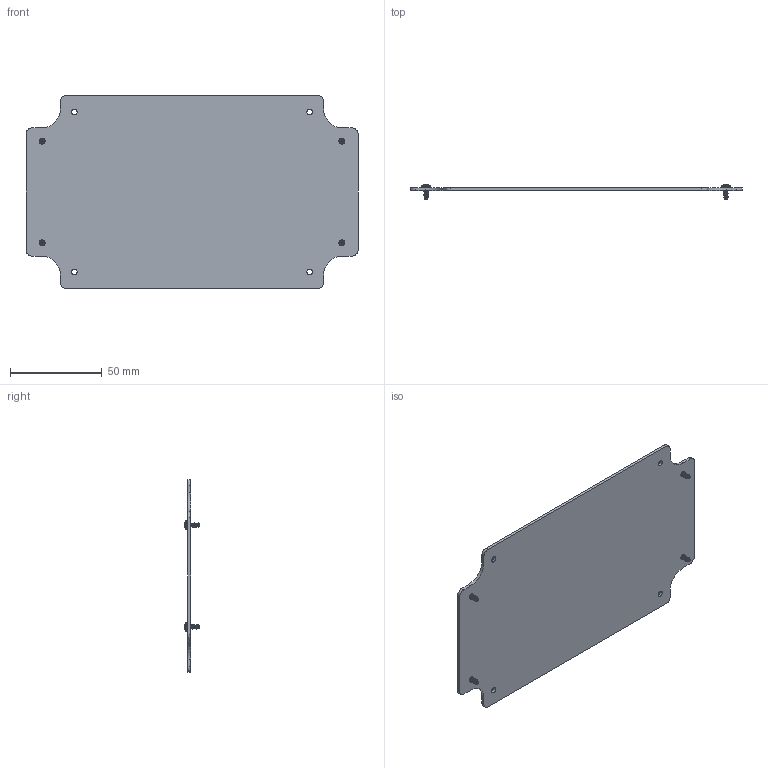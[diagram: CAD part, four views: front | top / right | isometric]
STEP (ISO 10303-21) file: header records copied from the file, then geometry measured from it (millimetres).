
FILE_DESCRIPTION (( 'STEP AP214' ), '1' );
FILE_NAME ('ML-47K.STEP', '2013-02-28T15:15:26', ( 'Designer2010' ), ( '' ), 'SwSTEP 2.0', 'SolidWorks 2013', '' );
FILE_SCHEMA (( 'AUTOMOTIVE_DESIGN' ));
Length unit declared in the file: inch
Products named in the file (3): SCREWS-MBR; ML-47P_ML-47P; ML-47K
Assembly tree (5 placements, depth 2):
  ML-47K
    ML-47P_ML-47P
    SCREWS-MBR  x4
Bounding box: 180.74 x 7.99 x 104.99 mm (x, y, z)
Volume: 28199.3 mm3; surface area: 36795.1 mm2
Topology: 5 solids, 5 shells, 566 faces, 1312 edges, 736 vertices
Faces by surface type: cylinder 160, torus 124, bspline 104, plane 98, sphere 68, cone 12
Full cylindrical faces by diameter (mm): 3.175 x8, 4.826 x4
Entity records: 9276 total; most frequent: CARTESIAN_POINT 5440, DIRECTION 795, ORIENTED_EDGE 756, EDGE_CURVE 378, AXIS2_PLACEMENT_3D 340, VERTEX_POINT 231, EDGE_LOOP 199, CIRCLE 191
